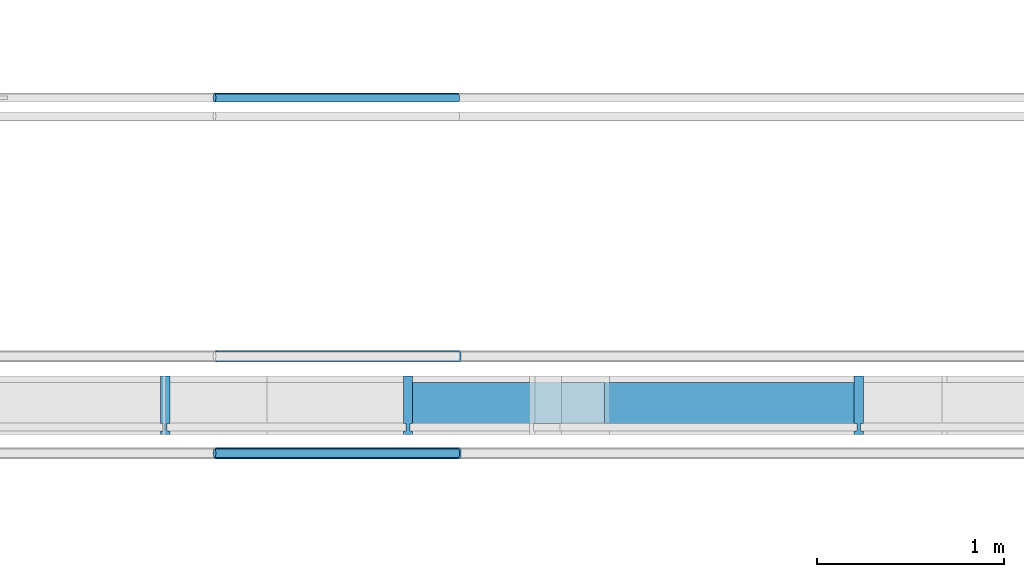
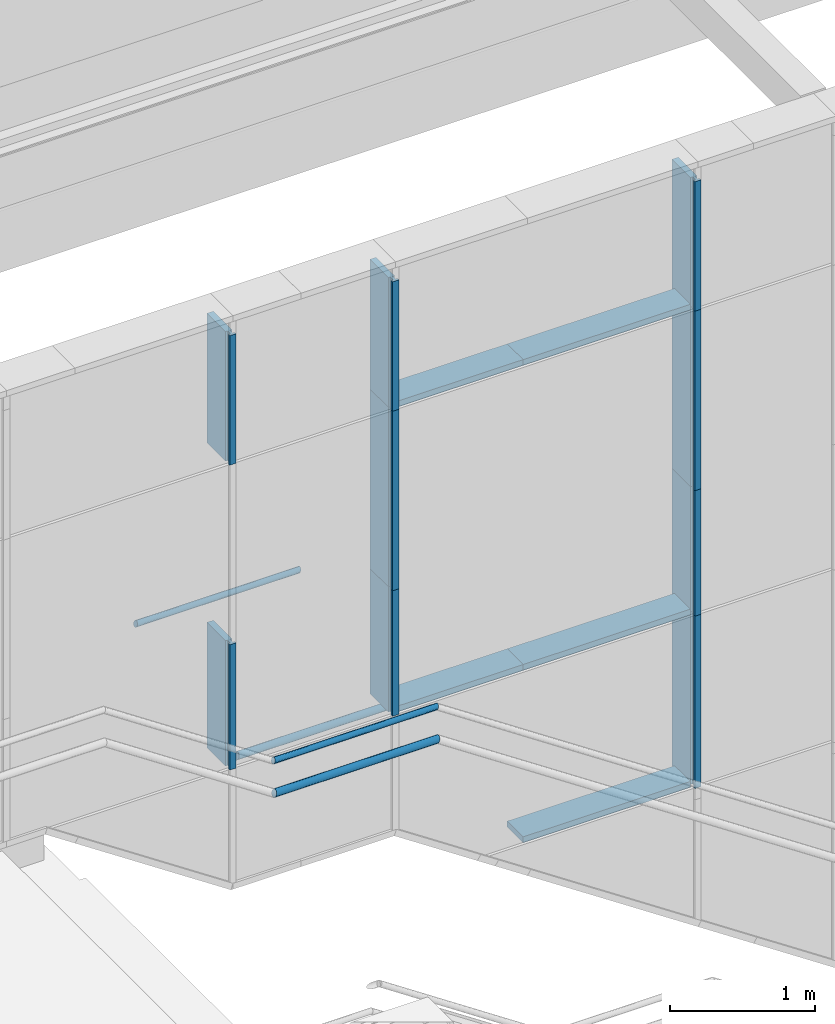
# One storey, part 2 of 137: 18 members, 4 elements without a shape of their own.
"""IFC2X3 building model written with IfcOpenShell, lengths in millimetres."""

from ifc_helpers import new_model, entity, si_unit, converted_unit, derived_unit, money_unit, direction, frame, origin_with_axes, place, context, subcontext, project, spatial, faceted_brep, source, transform, mapped, material, type_object, type_shapes, element, aggregate, save


model = new_model("IFC2X3")

# Units and contexts
model_context = context("Model", 3, precision=0.01, world=origin_with_axes(), true_north=direction((0.0, 1.0)))
body_context = subcontext(model_context, "Body", "Model", "MODEL_VIEW")
ifc_project = project(units=[si_unit("LENGTHUNIT", "METRE", prefix="MILLI"), si_unit("AREAUNIT", "SQUARE_METRE"), si_unit("VOLUMEUNIT", "CUBIC_METRE"), converted_unit("PLANEANGLEUNIT", "DEGREE", entity("IfcPlaneAngleMeasure", 0.0174532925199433), si_unit("PLANEANGLEUNIT", "RADIAN"), dimensions=[0, 0, 0, 0, 0, 0, 0]), money_unit("EUR"), converted_unit("TIMEUNIT", "Year", entity("IfcTimeMeasure", 31556926.0), si_unit("TIMEUNIT", "SECOND"), dimensions=[0, 0, 1, 0, 0, 0, 0]), si_unit("MASSUNIT", "GRAM", prefix="KILO"), si_unit("THERMODYNAMICTEMPERATUREUNIT", "DEGREE_CELSIUS"), si_unit("LUMINOUSINTENSITYUNIT", "LUMEN"), si_unit("ENERGYUNIT", "JOULE", prefix="MEGA"), derived_unit("THERMALCONDUCTANCEUNIT", [(si_unit("POWERUNIT", "WATT"), 1), (si_unit("LENGTHUNIT", "METRE"), -1), (si_unit("THERMODYNAMICTEMPERATUREUNIT", "KELVIN"), -1)]), derived_unit("SPECIFICHEATCAPACITYUNIT", [(si_unit("ENERGYUNIT", "JOULE"), 1), (si_unit("MASSUNIT", "GRAM", prefix="KILO"), -1), (si_unit("THERMODYNAMICTEMPERATUREUNIT", "KELVIN"), -1)]), derived_unit("MASSDENSITYUNIT", [(si_unit("MASSUNIT", "GRAM", prefix="KILO"), 1), (si_unit("VOLUMEUNIT", "CUBIC_METRE"), -1)])], contexts=[model_context])

# Site, building, storey
site_placement = place(None, origin_with_axes())
site = spatial("IfcSite", under=ifc_project, at=site_placement, Name="Site", CompositionType="ELEMENT")
building_placement = place(site_placement, origin_with_axes())
building = spatial("IfcBuilding", under=site, at=building_placement, Name="Naam gebouw", CompositionType="ELEMENT")
storey_placement = place(building_placement, frame((0.0, 0.0, 3960.0), z_axis=(0.0, 0.0, 1.0), x_axis=(1.0, 0.0, 0.0)))
storey = spatial("IfcBuildingStorey", under=building, at=storey_placement, Name="1e verdieping", CompositionType="ELEMENT", Elevation=3960.0)

# Railing, member
railing_type = type_object("IfcRailingType", Name="Railing Type", PredefinedType="NOTDEFINED")
railing_1_placement = place(storey_placement, frame((18789.99987047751, 4162.49999999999, -4086.699999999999), z_axis=(0.0, 0.0, 1.0), x_axis=(1.0, 0.0, 0.0)))
railing_1 = element("IfcRailing", 1, at=railing_1_placement, inside=storey, type_object=railing_type, Name="34_Reling-x", PredefinedType="NOTDEFINED")
ifc_material_1 = material(Name="Metaal - RVS")
member_type_1 = type_object("IfcMemberType", Name="IfcMember", PredefinedType="USERDEFINED")
shared_shape_1 = source(origin_with_axes(), body_context, "Body", "Brep", [
    faceted_brep([(-7.312031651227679, -24.15, 975.8500000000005), (-6.042310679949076, -23.78310723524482, 980.0436034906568), (-1306.042251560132, -23.78310723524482, 980.0436034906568), (-1307.311972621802, -24.15, 975.8500000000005), (-8.581752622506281, -23.78310723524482, 971.6563965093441), (-9.812893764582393, -22.69357679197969, 967.5902135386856), (-10.96804747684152, -20.91451350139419, 963.7750000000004), (-12.01211499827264, -18.49997330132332, 960.3266792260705), (-12.91337286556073, -15.52332077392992, 957.3500266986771), (-13.64443681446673, -12.075, 954.9354864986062), (-14.18309383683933, -8.259786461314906, 953.1564232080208), (-14.51297711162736, -4.193603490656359, 952.0668927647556), (-14.62406330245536, 0.0, 951.7000000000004), (-14.51297711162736, 4.193603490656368, 952.0668927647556), (-14.18309383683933, 8.259786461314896, 953.1564232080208), (-13.64443681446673, 12.07500000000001, 954.9354864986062), (-12.91337286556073, 15.52332077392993, 957.3500266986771), (-12.01211499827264, 18.49997330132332, 960.3266792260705), (-10.96804747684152, 20.91451350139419, 963.7750000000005), (-9.812893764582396, 22.69357679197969, 967.5902135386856), (-8.581752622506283, 23.78310723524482, 971.6563965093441), (-7.312031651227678, 24.15, 975.8500000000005), (-6.042310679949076, 23.78310723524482, 980.0436034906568), (-4.811169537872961, 22.69357679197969, 984.1097864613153), (-3.65601582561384, 20.9145135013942, 987.9250000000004), (-2.611948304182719, 18.49997330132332, 991.3733207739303), (-1.710690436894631, 15.52332077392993, 994.3499733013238), (-0.9796264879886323, 12.075, 996.7645135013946), (-0.4409694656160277, 8.2597864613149, 998.5435767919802), (-0.1110861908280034, 4.193603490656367, 999.6331072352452), (0.0, 0.0, 1000.0), (-0.1110861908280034, -4.193603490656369, 999.6331072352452), (-0.4409694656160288, -8.259786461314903, 998.5435767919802), (-0.9796264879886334, -12.075, 996.7645135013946), (-1.710690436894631, -15.52332077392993, 994.3499733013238), (-2.61194830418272, -18.49997330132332, 991.3733207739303), (-3.65601582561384, -20.9145135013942, 987.9250000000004), (-4.811169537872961, -22.69357679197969, 984.1097864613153), (-1304.811110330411, -22.69357679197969, 984.1097864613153), (-1303.655956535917, -20.9145135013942, 987.9250000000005), (-1302.611888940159, -18.49997330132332, 991.3733207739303), (-1301.710631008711, -15.52332077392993, 994.3499733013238), (-1300.97956700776, -12.075, 996.7645135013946), (-1300.440909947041, -8.259786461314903, 998.5435767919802), (-1300.111026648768, -4.193603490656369, 999.6331072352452), (-1299.999940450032, 0.0, 1000.0), (-1300.111026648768, 4.193603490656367, 999.6331072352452), (-1300.440909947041, 8.2597864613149, 998.5435767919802), (-1300.97956700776, 12.075, 996.7645135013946), (-1301.710631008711, 15.52332077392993, 994.3499733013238), (-1302.611888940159, 18.49997330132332, 991.3733207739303), (-1303.655956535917, 20.9145135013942, 987.9250000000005), (-1304.811110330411, 22.69357679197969, 984.1097864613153), (-1306.042251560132, 23.78310723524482, 980.0436034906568), (-1307.311972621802, 24.15, 975.8500000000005), (-1308.581693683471, 23.78310723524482, 971.6563965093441), (-1309.812834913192, 22.69357679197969, 967.5902135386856), (-1310.967988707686, 20.91451350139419, 963.7750000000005), (-1312.012056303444, 18.49997330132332, 960.3266792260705), (-1312.913314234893, 15.52332077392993, 957.3500266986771), (-1313.644378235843, 12.07500000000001, 954.9354864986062), (-1314.183035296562, 8.259786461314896, 953.1564232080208), (-1314.512918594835, 4.193603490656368, 952.0668927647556), (-1314.624004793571, 0.0, 951.7000000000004), (-1314.512918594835, -4.193603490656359, 952.0668927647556), (-1314.183035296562, -8.259786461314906, 953.1564232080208), (-1313.644378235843, -12.075, 954.9354864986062), (-1312.913314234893, -15.52332077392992, 957.3500266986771), (-1312.012056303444, -18.49997330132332, 960.3266792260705), (-1310.967988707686, -20.91451350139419, 963.7750000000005), (-1309.812834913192, -22.69357679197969, 967.5902135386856), (-1308.581693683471, -23.78310723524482, 971.6563965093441)], [[[0, 1, 2, 3]], [[0, 4, 5, 6, 7, 8, 9, 10, 11, 12, 13, 14, 15, 16, 17, 18, 19, 20, 21, 22, 23, 24, 25, 26, 27, 28, 29, 30, 31, 32, 33, 34, 35, 36, 37, 1]], [[1, 37, 38, 2]], [[3, 2, 38, 39, 40, 41, 42, 43, 44, 45, 46, 47, 48, 49, 50, 51, 52, 53, 54, 55, 56, 57, 58, 59, 60, 61, 62, 63, 64, 65, 66, 67, 68, 69, 70, 71]], [[4, 0, 3, 71]], [[5, 4, 71, 70]], [[6, 5, 70, 69]], [[7, 6, 69, 68]], [[8, 7, 68, 67]], [[9, 8, 67, 66]], [[10, 9, 66, 65]], [[11, 10, 65, 64]], [[12, 11, 64, 63]], [[13, 12, 63, 62]], [[14, 13, 62, 61]], [[15, 14, 61, 60]], [[16, 15, 60, 59]], [[17, 16, 59, 58]], [[18, 17, 58, 57]], [[19, 18, 57, 56]], [[20, 19, 56, 55]], [[21, 20, 55, 54]], [[22, 21, 54, 53]], [[23, 22, 53, 52]], [[24, 23, 52, 51]], [[25, 24, 51, 50]], [[26, 25, 50, 49]], [[27, 26, 49, 48]], [[28, 27, 48, 47]], [[29, 28, 47, 46]], [[30, 29, 46, 45]], [[31, 30, 45, 44]], [[32, 31, 44, 43]], [[33, 32, 43, 42]], [[34, 33, 42, 41]], [[35, 34, 41, 40]], [[36, 35, 40, 39]], [[37, 36, 39, 38]]]),
])
member_1_placement = place(railing_1_placement, frame((-4969.999970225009, -99.99999999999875, 4132.675675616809), z_axis=(0.0, 0.0, 1.0), x_axis=(1.0, 0.0, 0.0)))
member_1 = element("IfcMember", 2, at=member_1_placement, type_object=member_type_1, material=ifc_material_1, Name="h3 Staal legeringen_", context=body_context, shape_type="MappedRepresentation", body=[
    mapped(shared_shape_1, transform((649.9999702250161, 0.0, -945.9989583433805))),
])

railing_2_placement = place(storey_placement, frame((18520.00002097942, 5850.000227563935, -3240.0), z_axis=(0.0, 0.0, 1.0), x_axis=(1.0, 0.0, 0.0)))
railing_2 = element("IfcRailing", 3, at=railing_2_placement, inside=storey, type_object=railing_type, Name="34_Reling-x", PredefinedType="NOTDEFINED")
member_2_placement = place(railing_2_placement, frame((-4699.999996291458, 110.0001261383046, 3285.998958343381), z_axis=(0.0, 0.0, 1.0), x_axis=(1.0, 0.0, 0.0)))
member_2 = element("IfcMember", 4, at=member_2_placement, type_object=member_type_1, material=ifc_material_1, Name="_", context=body_context, shape_type="MappedRepresentation", body=[
    mapped(shared_shape_1, transform((650.0000119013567, -0.0003341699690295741, -945.9989583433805))),
])
aggregate(railing_2, [member_2])

railing_3_placement = place(storey_placement, frame((18789.99987047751, 4479.999999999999, -4086.699999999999), z_axis=(0.0, 0.0, 1.0), x_axis=(1.0, 0.0, 0.0)))
railing_3 = element("IfcRailing", 5, at=railing_3_placement, inside=storey, type_object=railing_type, Name="34_Reling-x", PredefinedType="NOTDEFINED")
shared_shape_2 = source(origin_with_axes(), body_context, "Body", "Brep", [
    faceted_brep([(0.0, -30.0, 700.0000000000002), (1.577293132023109, -29.54423259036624, 705.2094453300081), (-1298.422647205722, -29.54423259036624, 705.209445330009), (-1299.999940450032, -30.0, 700.000000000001), (-1.57729313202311, -29.54423259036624, 694.7905546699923), (-3.106661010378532, -28.19077862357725, 689.7393957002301), (-4.541634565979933, -25.98076211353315, 685.0000000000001), (-5.838612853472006, -22.98133329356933, 680.716371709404), (-6.958187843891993, -19.28362829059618, 677.0186667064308), (-7.866341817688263, -15.0, 674.019237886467), (-8.535480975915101, -10.26060429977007, 671.809221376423), (-8.945273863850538, -5.209445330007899, 670.455767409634), (-9.083269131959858, 0.0, 670.0000000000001), (-8.945273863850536, 5.20944533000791, 670.455767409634), (-8.535480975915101, 10.26060429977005, 671.809221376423), (-7.866341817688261, 15.00000000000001, 674.019237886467), (-6.958187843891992, 19.28362829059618, 677.0186667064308), (-5.838612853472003, 22.98133329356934, 680.716371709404), (-4.54163456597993, 25.98076211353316, 685.0000000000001), (-3.106661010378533, 28.19077862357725, 689.7393957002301), (-1.577293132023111, 29.54423259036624, 694.7905546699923), (0.0, 30.0, 700.0000000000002), (1.577293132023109, 29.54423259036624, 705.2094453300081), (3.106661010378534, 28.19077862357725, 710.2606042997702), (4.541634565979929, 25.98076211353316, 715.0000000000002), (5.838612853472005, 22.98133329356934, 719.2836282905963), (6.958187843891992, 19.28362829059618, 722.9813332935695), (7.866341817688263, 14.99999999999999, 725.9807621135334), (8.535480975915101, 10.26060429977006, 728.1907786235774), (8.945273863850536, 5.209445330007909, 729.5442325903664), (9.083269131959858, 0.0, 730.0000000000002), (8.945273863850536, -5.209445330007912, 729.5442325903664), (8.535480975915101, -10.26060429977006, 728.1907786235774), (7.866341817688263, -15.0, 725.9807621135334), (6.958187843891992, -19.28362829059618, 722.9813332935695), (5.838612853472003, -22.98133329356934, 719.2836282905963), (4.541634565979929, -25.98076211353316, 715.0000000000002), (3.106661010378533, -28.19077862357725, 710.2606042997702), (-1296.893279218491, -28.19077862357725, 710.2606042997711), (-1295.458305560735, -25.98076211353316, 715.000000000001), (-1294.161327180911, -22.98133329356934, 719.2836282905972), (-1293.041752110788, -19.28362829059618, 722.9813332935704), (-1292.133598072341, -15.0, 725.9807621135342), (-1291.464458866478, -10.26060429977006, 728.1907786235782), (-1291.05466594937, -5.209445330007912, 729.5442325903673), (-1290.916670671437, 0.0, 730.0000000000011), (-1291.05466594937, 5.209445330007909, 729.5442325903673), (-1291.464458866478, 10.26060429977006, 728.1907786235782), (-1292.133598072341, 14.99999999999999, 725.9807621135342), (-1293.041752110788, 19.28362829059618, 722.9813332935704), (-1294.161327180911, 22.98133329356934, 719.2836282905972), (-1295.458305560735, 25.98076211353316, 715.000000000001), (-1296.893279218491, 28.19077862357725, 710.2606042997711), (-1298.422647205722, 29.54423259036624, 705.209445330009), (-1299.999940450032, 30.0, 700.000000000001), (-1301.577233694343, 29.54423259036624, 694.7905546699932), (-1303.106601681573, 28.19077862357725, 689.7393957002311), (-1304.54157533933, 25.98076211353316, 685.000000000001), (-1305.838553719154, 22.98133329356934, 680.7163717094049), (-1306.958128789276, 19.28362829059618, 677.0186667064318), (-1307.866282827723, 15.00000000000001, 674.0192378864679), (-1308.535422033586, 10.26060429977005, 671.8092213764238), (-1308.945214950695, 5.20944533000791, 670.4557674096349), (-1309.083210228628, 0.0, 670.000000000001), (-1308.945214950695, -5.209445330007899, 670.4557674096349), (-1308.535422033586, -10.26060429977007, 671.8092213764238), (-1307.866282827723, -15.0, 674.0192378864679), (-1306.958128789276, -19.28362829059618, 677.0186667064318), (-1305.838553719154, -22.98133329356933, 680.7163717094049), (-1304.54157533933, -25.98076211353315, 685.000000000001), (-1303.106601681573, -28.19077862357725, 689.7393957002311), (-1301.577233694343, -29.54423259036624, 694.7905546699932)], [[[0, 1, 2, 3]], [[0, 4, 5, 6, 7, 8, 9, 10, 11, 12, 13, 14, 15, 16, 17, 18, 19, 20, 21, 22, 23, 24, 25, 26, 27, 28, 29, 30, 31, 32, 33, 34, 35, 36, 37, 1]], [[1, 37, 38, 2]], [[3, 2, 38, 39, 40, 41, 42, 43, 44, 45, 46, 47, 48, 49, 50, 51, 52, 53, 54, 55, 56, 57, 58, 59, 60, 61, 62, 63, 64, 65, 66, 67, 68, 69, 70, 71]], [[4, 0, 3, 71]], [[5, 4, 71, 70]], [[6, 5, 70, 69]], [[7, 6, 69, 68]], [[8, 7, 68, 67]], [[9, 8, 67, 66]], [[10, 9, 66, 65]], [[11, 10, 65, 64]], [[12, 11, 64, 63]], [[13, 12, 63, 62]], [[14, 13, 62, 61]], [[15, 14, 61, 60]], [[16, 15, 60, 59]], [[17, 16, 59, 58]], [[18, 17, 58, 57]], [[19, 18, 57, 56]], [[20, 19, 56, 55]], [[21, 20, 55, 54]], [[22, 21, 54, 53]], [[23, 22, 53, 52]], [[24, 23, 52, 51]], [[25, 24, 51, 50]], [[26, 25, 50, 49]], [[27, 26, 49, 48]], [[28, 27, 48, 47]], [[29, 28, 47, 46]], [[30, 29, 46, 45]], [[31, 30, 45, 44]], [[32, 31, 44, 43]], [[33, 32, 43, 42]], [[34, 33, 42, 41]], [[35, 34, 41, 40]], [[36, 35, 40, 39]], [[37, 36, 39, 38]]]),
])
type_shapes(member_type_1, [shared_shape_1, shared_shape_2])
member_3_placement = place(railing_3_placement, frame((-4969.999970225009, 99.99999999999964, 3844.250310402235), z_axis=(0.0, 0.0, 1.0), x_axis=(1.0, 0.0, 0.0)))
member_3 = element("IfcMember", 6, at=member_3_placement, type_object=member_type_1, material=ifc_material_1, Name="_Regel-x", context=body_context, shape_type="MappedRepresentation", body=[
    mapped(shared_shape_2, transform((649.9999702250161, 0.0, -657.5735931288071))),
])
aggregate(railing_3, [member_3])

# Member
member_4_placement = place(railing_1_placement, frame((-4969.999970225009, -99.99999999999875, 3844.250310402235), z_axis=(0.0, 0.0, 1.0), x_axis=(1.0, 0.0, 0.0)))
member_4 = element("IfcMember", 7, at=member_4_placement, type_object=member_type_1, material=ifc_material_1, Name="h3 Staal legeringen_Regel-x", context=body_context, shape_type="MappedRepresentation", body=[
    mapped(shared_shape_2, transform((649.9999702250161, 0.0, -657.5735931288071))),
])

aggregate(railing_1, [member_1, member_4])

# Curtain wall, members
curtain_wall_type = type_object("IfcCurtainWallType", Name="Curtain Wall Type", PredefinedType="NOTDEFINED")
curtain_wall_placement = place(storey_placement, frame((8473.014787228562, 4364.43626274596, -3949.999921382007), z_axis=(0.0, 0.0, 1.0), x_axis=(1.0, 0.0, 0.0)))
curtain_wall = element("IfcCurtainWall", 8, at=curtain_wall_placement, inside=storey, type_object=curtain_wall_type, Name="21_Vliesgevel-x")
ifc_material_2 = material(Name="Metaal - Staal AFW")
member_type_2 = type_object("IfcMemberType", Name="Transom Frame 50 x 258", PredefinedType="MULLION")
shared_shape_3 = source(origin_with_axes(), body_context, "Body", "Brep", [
    faceted_brep([(25.0, -17.4, 25.00000019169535), (25.0, -17.4, 1047.96125104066), (25.0, -237.0, 1047.96125104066), (25.0, -237.0, 25.00000261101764), (-25.0, -17.4, 25.00000019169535), (-25.0, -17.4, 1047.96125104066), (-25.0, -237.0, 1047.96125104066), (-25.0, -237.0, 25.00000261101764)], [[[0, 1, 2, 3]], [[4, 5, 1, 0]], [[2, 1, 5, 6]], [[3, 2, 6, 7]], [[3, 7, 4, 0]], [[7, 6, 5, 4]]]),
])
member_5_placement = place(curtain_wall_placement, frame((5721.980394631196, -161.43626274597, 3984.999929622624), z_axis=(1.0, 0.0, -2.287249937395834e-09), x_axis=(2.287249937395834e-09, 0.0, 1.0)))
member_5 = element("IfcMember", 9, at=member_5_placement, type_object=member_type_2, material=ifc_material_2, Name="h METAAL_Kader-x", ObjectType="MULLION", context=body_context, shape_type="MappedRepresentation", body=[
    mapped(shared_shape_3, transform((0.0, 0.0, 0.0))),
])
member_6_placement = place(curtain_wall_placement, frame((5721.980394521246, -161.43626274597, 6549.999915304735), z_axis=(1.0, 0.0, 0.0), x_axis=(0.0, 0.0, 1.0)))
member_6 = element("IfcMember", 10, at=member_6_placement, type_object=member_type_2, material=ifc_material_2, Name="_Kader-x", ObjectType="MULLION", context=body_context, shape_type="MappedRepresentation", body=[
    mapped(shared_shape_3, transform((0.0, 0.0, 0.0))),
])
member_type_3 = type_object("IfcMemberType", Name="Mullion Frame 50 x 313", PredefinedType="MULLION")
shared_shape_4 = source(origin_with_axes(), body_context, "Body", "Brep", [
    faceted_brep([(10.0, -17.4, 0.0), (10.0, 21.0, 0.0), (10.0, 21.0, 1449.999901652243), (10.0, -17.4, 1449.999901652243), (-10.0, -17.4, 0.0), (-10.0, 21.0, 0.0), (-10.0, 21.0, 1449.999901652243), (-10.0, -17.4, 1449.999901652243)], [[[0, 1, 2, 3]], [[0, 4, 5, 1]], [[1, 5, 6, 2]], [[3, 2, 6, 7]], [[4, 0, 3, 7]], [[5, 4, 7, 6]]]),
    faceted_brep([(25.0, -272.0, 0.0), (25.0, -17.4, 0.0), (25.0, -17.4, 1449.999901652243), (25.0, -272.0, 1449.999901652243), (-25.0, -272.0, 0.0), (-25.0, -17.4, 0.0), (-25.0, -17.4, 1449.999901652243), (-25.0, -272.0, 1449.999901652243)], [[[0, 1, 2, 3]], [[0, 4, 5, 1]], [[1, 5, 6, 2]], [[3, 2, 6, 7]], [[4, 0, 3, 7]], [[5, 4, 7, 6]]]),
    faceted_brep([(-25.0, 40.49999999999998, 0.0), (-25.0, 21.0, 0.0), (-25.0, 21.0, 1449.999901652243), (-25.0, 40.49999999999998, 1449.999901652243), (25.0, 40.49999999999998, 0.0), (25.0, 21.0, 0.0), (25.0, 21.0, 1449.999901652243), (25.0, 40.49999999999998, 1449.999901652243)], [[[0, 1, 2, 3]], [[0, 4, 5, 1]], [[1, 5, 6, 2]], [[3, 2, 6, 7]], [[4, 0, 3, 7]], [[5, 4, 7, 6]]]),
])
member_7_placement = place(curtain_wall_placement, frame((8126.979715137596, -161.4362627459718, 2535.000025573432), z_axis=(0.0, 0.0, 1.0), x_axis=(-1.0, 0.0, 0.0)))
member_7 = element("IfcMember", 11, at=member_7_placement, type_object=member_type_3, material=ifc_material_2, Name="_Kader-x", ObjectType="MULLION", context=body_context, shape_type="MappedRepresentation", body=[
    mapped(shared_shape_4, transform((0.0, 0.0, 0.0))),
])
shared_shape_5 = source(origin_with_axes(), body_context, "Body", "Brep", [
    faceted_brep([(10.0, -17.4, -8.656350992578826e-08), (10.0, 21.0, -8.656350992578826e-08), (10.0, 21.0, 1089.999852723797), (10.0, -17.4, 1089.999852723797), (-10.0, -17.4, -8.656350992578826e-08), (-10.0, 21.0, -8.656350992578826e-08), (-10.0, 21.0, 1089.999852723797), (-10.0, -17.4, 1089.999852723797)], [[[0, 1, 2, 3]], [[0, 4, 5, 1]], [[1, 5, 6, 2]], [[3, 2, 6, 7]], [[4, 0, 3, 7]], [[5, 4, 7, 6]]]),
    faceted_brep([(25.0, -272.0, -8.656350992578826e-08), (25.0, -17.4, -8.656350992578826e-08), (25.0, -17.4, 1089.999852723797), (25.0, -272.0, 1089.999852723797), (-25.0, -272.0, -8.656350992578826e-08), (-25.0, -17.4, -8.656350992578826e-08), (-25.0, -17.4, 1089.999852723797), (-25.0, -272.0, 1089.999852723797)], [[[0, 1, 2, 3]], [[0, 4, 5, 1]], [[1, 5, 6, 2]], [[3, 2, 6, 7]], [[4, 0, 3, 7]], [[5, 4, 7, 6]]]),
    faceted_brep([(-25.0, 40.49999999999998, -8.656350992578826e-08), (-25.0, 21.0, -8.656350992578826e-08), (-25.0, 21.0, 1089.999852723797), (-25.0, 40.49999999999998, 1089.999852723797), (25.0, 40.49999999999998, -8.656350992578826e-08), (25.0, 21.0, -8.656350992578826e-08), (25.0, 21.0, 1089.999852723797), (25.0, 40.49999999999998, 1089.999852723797)], [[[0, 1, 2, 3]], [[0, 4, 5, 1]], [[1, 5, 6, 2]], [[3, 2, 6, 7]], [[4, 0, 3, 7]], [[5, 4, 7, 6]]]),
])
member_8_placement = place(curtain_wall_placement, frame((4426.980398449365, -161.43626274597, 6549.999915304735), z_axis=(-7.473841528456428e-09, 0.0, 1.0), x_axis=(-1.0, 0.0, -7.473841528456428e-09)))
member_8 = element("IfcMember", 12, at=member_8_placement, type_object=member_type_3, material=ifc_material_2, Name="_Kader-x", ObjectType="MULLION", context=body_context, shape_type="MappedRepresentation", body=[
    mapped(shared_shape_5, transform((0.0, 0.0, 0.0))),
])
member_9_placement = place(curtain_wall_placement, frame((5721.980394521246, -161.43626274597, 6549.999915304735), z_axis=(-2.186407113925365e-09, 0.0, 1.0), x_axis=(-1.0, 0.0, -2.186407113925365e-09)))
member_9 = element("IfcMember", 13, at=member_9_placement, type_object=member_type_3, material=ifc_material_2, Name="_Kader-x", ObjectType="MULLION", context=body_context, shape_type="MappedRepresentation", body=[
    mapped(shared_shape_5, transform((0.0, 0.0, 0.0))),
])
member_10_placement = place(curtain_wall_placement, frame((8126.979717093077, -161.4362627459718, 6549.999915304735), z_axis=(3.888611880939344e-08, 0.0, 0.9999999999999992), x_axis=(-0.9999999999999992, 0.0, 3.888611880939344e-08)))
member_10 = element("IfcMember", 14, at=member_10_placement, type_object=member_type_3, material=ifc_material_2, Name="_Kader-x", ObjectType="MULLION", context=body_context, shape_type="MappedRepresentation", body=[
    mapped(shared_shape_5, transform((0.0, 0.0, 0.0))),
])
shared_shape_6 = source(origin_with_axes(), body_context, "Body", "Brep", [
    faceted_brep([(10.0, -17.4, 0.0), (10.0, 21.0, 0.0), (10.0, 21.0, 1054.999839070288), (10.0, -17.4, 1054.999839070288), (-10.0, -17.4, 0.0), (-10.0, 21.0, 0.0), (-10.0, 21.0, 1054.999839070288), (-10.0, -17.4, 1054.999839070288)], [[[0, 1, 2, 3]], [[0, 4, 5, 1]], [[1, 5, 6, 2]], [[3, 2, 6, 7]], [[4, 0, 3, 7]], [[5, 4, 7, 6]]]),
    faceted_brep([(25.0, -272.0, 0.0), (25.0, -17.4, 0.0), (25.0, -17.4, 1054.999839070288), (25.0, -272.0, 1054.999839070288), (-25.0, -272.0, 0.0), (-25.0, -17.4, 0.0), (-25.0, -17.4, 1054.999839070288), (-25.0, -272.0, 1054.999839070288)], [[[0, 1, 2, 3]], [[0, 4, 5, 1]], [[1, 5, 6, 2]], [[3, 2, 6, 7]], [[4, 0, 3, 7]], [[5, 4, 7, 6]]]),
    faceted_brep([(-25.0, 40.49999999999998, 0.0), (-25.0, 21.0, 0.0), (-25.0, 21.0, 1054.999839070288), (-25.0, 40.49999999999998, 1054.999839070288), (25.0, 40.49999999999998, 0.0), (25.0, 21.0, 0.0), (25.0, 21.0, 1054.999839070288), (25.0, 40.49999999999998, 1054.999839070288)], [[[0, 1, 2, 3]], [[0, 4, 5, 1]], [[1, 5, 6, 2]], [[3, 2, 6, 7]], [[4, 0, 3, 7]], [[5, 4, 7, 6]]]),
])
member_11_placement = place(curtain_wall_placement, frame((4426.980383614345, -161.43626274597, 3984.999924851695), z_axis=(1.441787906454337e-08, 0.0, 0.9999999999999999), x_axis=(-0.9999999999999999, 0.0, 1.441787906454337e-08)))
member_11 = element("IfcMember", 15, at=member_11_placement, type_object=member_type_3, material=ifc_material_2, Name="_Kader-x", ObjectType="MULLION", context=body_context, shape_type="MappedRepresentation", body=[
    mapped(shared_shape_6, transform((0.0, 0.0, 0.0))),
])
member_12_placement = place(curtain_wall_placement, frame((5721.980394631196, -161.43626274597, 3984.999929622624), z_axis=(0.0, 0.0, 1.0), x_axis=(-1.0, 0.0, 0.0)))
member_12 = element("IfcMember", 16, at=member_12_placement, type_object=member_type_3, material=ifc_material_2, Name="_Kader-x", ObjectType="MULLION", context=body_context, shape_type="MappedRepresentation", body=[
    mapped(shared_shape_6, transform((0.0, 0.0, 0.0))),
])
member_13_placement = place(curtain_wall_placement, frame((8126.979715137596, -161.4362627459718, 3984.999927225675), z_axis=(0.0, 0.0, 1.0), x_axis=(-1.0, 0.0, 0.0)))
member_13 = element("IfcMember", 17, at=member_13_placement, type_object=member_type_3, material=ifc_material_2, Name="_Kader-x", ObjectType="MULLION", context=body_context, shape_type="MappedRepresentation", body=[
    mapped(shared_shape_6, transform((0.0, 0.0, 0.0))),
])
shared_shape_7 = source(origin_with_axes(), body_context, "Body", "Brep", [
    faceted_brep([(10.0, -17.4, -4.762904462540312e-09), (10.0, 21.0, -4.762904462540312e-09), (10.0, 21.0, 1510.000149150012), (10.0, -17.4, 1510.000149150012), (-10.0, -17.4, -4.762904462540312e-09), (-10.0, 21.0, -4.762904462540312e-09), (-10.0, 21.0, 1510.000149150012), (-10.0, -17.4, 1510.000149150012)], [[[0, 1, 2, 3]], [[0, 4, 5, 1]], [[1, 5, 6, 2]], [[3, 2, 6, 7]], [[4, 0, 3, 7]], [[5, 4, 7, 6]]]),
    faceted_brep([(25.0, -272.0, -4.762904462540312e-09), (25.0, -17.4, -4.762904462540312e-09), (25.0, -17.4, 1510.000149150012), (25.0, -272.0, 1510.000149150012), (-25.0, -272.0, -4.762904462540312e-09), (-25.0, -17.4, -4.762904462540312e-09), (-25.0, -17.4, 1510.000149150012), (-25.0, -272.0, 1510.000149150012)], [[[0, 1, 2, 3]], [[0, 4, 5, 1]], [[1, 5, 6, 2]], [[3, 2, 6, 7]], [[4, 0, 3, 7]], [[5, 4, 7, 6]]]),
    faceted_brep([(-25.0, 40.49999999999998, -4.762904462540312e-09), (-25.0, 21.0, -4.762904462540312e-09), (-25.0, 21.0, 1510.000149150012), (-25.0, 40.49999999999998, 1510.000149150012), (25.0, 40.49999999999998, -4.762904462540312e-09), (25.0, 21.0, -4.762904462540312e-09), (25.0, 21.0, 1510.000149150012), (25.0, 40.49999999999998, 1510.000149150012)], [[[0, 1, 2, 3]], [[0, 4, 5, 1]], [[1, 5, 6, 2]], [[3, 2, 6, 7]], [[4, 0, 3, 7]], [[5, 4, 7, 6]]]),
])
type_shapes(member_type_3, [shared_shape_4, shared_shape_5, shared_shape_6, shared_shape_7])
member_14_placement = place(curtain_wall_placement, frame((5721.980394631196, -161.43626274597, 5039.999766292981), z_axis=(0.0, 0.0, 1.0), x_axis=(-1.0, 0.0, 0.0)))
member_14 = element("IfcMember", 18, at=member_14_placement, type_object=member_type_3, material=ifc_material_2, Name="_Kader-x", ObjectType="MULLION", context=body_context, shape_type="MappedRepresentation", body=[
    mapped(shared_shape_7, transform((0.0, 0.0, 0.0))),
])
member_15_placement = place(curtain_wall_placement, frame((8126.979715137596, -161.4362627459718, 5039.999766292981), z_axis=(1.295020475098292e-09, 0.0, 1.0), x_axis=(-1.0, 0.0, 1.295020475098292e-09)))
member_15 = element("IfcMember", 19, at=member_15_placement, type_object=member_type_3, material=ifc_material_2, Name="_Kader-x", ObjectType="MULLION", context=body_context, shape_type="MappedRepresentation", body=[
    mapped(shared_shape_7, transform((0.0, 0.0, 0.0))),
])
shared_shape_8 = source(origin_with_axes(), body_context, "Body", "Brep", [
    faceted_brep([(25.0, -237.0, -1.248376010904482e-06), (25.0, -17.4, -1.248376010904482e-06), (25.0, -17.4, 1332.038066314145), (25.0, -237.0, 1332.038025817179), (-25.0, -237.0, -1.248376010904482e-06), (-25.0, -17.4, -1.248376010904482e-06), (-25.0, -17.4, 1332.038066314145), (-25.0, -237.0, 1332.038025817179)], [[[0, 1, 2, 3]], [[0, 4, 5, 1]], [[1, 5, 6, 2]], [[3, 2, 6, 7]], [[4, 0, 3, 7]], [[5, 4, 7, 6]]]),
])
type_shapes(member_type_2, [shared_shape_3, shared_shape_8])
member_16_placement = place(curtain_wall_placement, frame((6769.941645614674, -161.4362627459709, 2535.000025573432), z_axis=(1.0, 0.0, 0.0), x_axis=(0.0, 0.0, 1.0)))
member_16 = element("IfcMember", 20, at=member_16_placement, type_object=member_type_2, material=ifc_material_2, Name="h METAAL_Kader-x", ObjectType="MULLION", context=body_context, shape_type="MappedRepresentation", body=[
    mapped(shared_shape_8, transform((0.0, 0.0, 0.0))),
])
member_17_placement = place(curtain_wall_placement, frame((6769.941645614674, -161.4362627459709, 3984.999927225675), z_axis=(1.0, 0.0, 0.0), x_axis=(0.0, 0.0, 1.0)))
member_17 = element("IfcMember", 21, at=member_17_placement, type_object=member_type_2, material=ifc_material_2, Name="_Kader-x", ObjectType="MULLION", context=body_context, shape_type="MappedRepresentation", body=[
    mapped(shared_shape_8, transform((0.0, 0.0, 0.0))),
])
member_18_placement = place(curtain_wall_placement, frame((6769.941645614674, -161.4362627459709, 6549.999915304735), z_axis=(1.0, 0.0, 0.0), x_axis=(0.0, 0.0, 1.0)))
member_18 = element("IfcMember", 22, at=member_18_placement, type_object=member_type_2, material=ifc_material_2, Name="_Kader-x", ObjectType="MULLION", context=body_context, shape_type="MappedRepresentation", body=[
    mapped(shared_shape_8, transform((0.0, 0.0, 0.0))),
])
aggregate(curtain_wall, [member_5, member_8, member_11, member_14, member_12, member_9, member_10, member_15, member_7, member_16, member_13, member_17, member_18, member_6])

save(model, "model.ifc")
